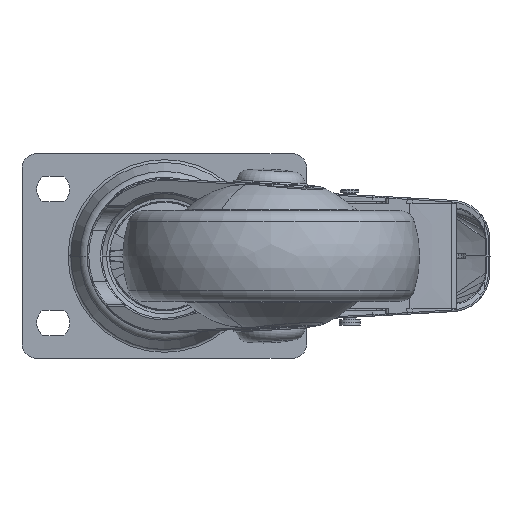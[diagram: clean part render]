
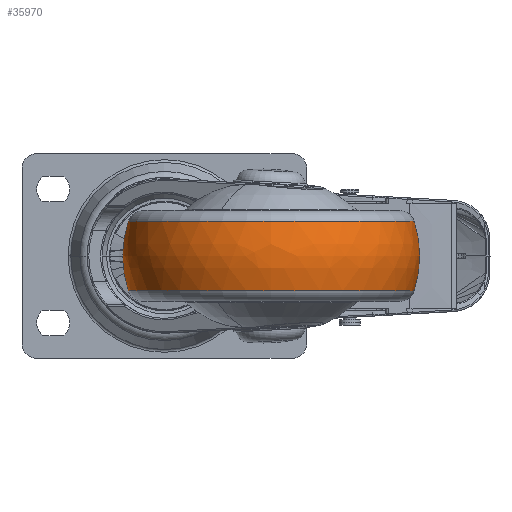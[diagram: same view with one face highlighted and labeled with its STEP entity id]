
A CAD part, front view. The second image highlights one B-rep face of the part: STEP entity #35970.
In plain terms, the highlighted free-form (B-spline) face has degree [3, 3] with [7, 4] control points.
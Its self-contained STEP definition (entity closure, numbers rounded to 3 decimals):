
#35616=CARTESIAN_POINT('',(24.21,-69.8,0.));
#35617=DIRECTION('',(0.,1.,0.));
#35618=DIRECTION('',(-0.951,0.,-0.308));
#35619=AXIS2_PLACEMENT_3D('',#35616,#35617,#35618);
#35626=CARTESIAN_POINT('',(47.79,-69.8,0.));
#35627=DIRECTION('',(0.,-1.,0.));
#35628=DIRECTION('',(0.951,0.,-0.308));
#35629=AXIS2_PLACEMENT_3D('',#35626,#35627,#35628);
#35631=CARTESIAN_POINT('',(36.,-69.8,11.766));
#35632=DIRECTION('',(0.,0.,1.));
#35633=DIRECTION('',(-1.,0.,0.));
#35634=AXIS2_PLACEMENT_3D('',#35631,#35632,#35633);
#35636=CARTESIAN_POINT('',(36.,-69.8,-11.766));
#35637=DIRECTION('',(0.,0.,1.));
#35638=DIRECTION('',(-1.,0.,0.));
#35639=AXIS2_PLACEMENT_3D('',#35636,#35637,#35638);
#35767=CARTESIAN_POINT('',(-12.143,-69.8,11.766));
#35768=CARTESIAN_POINT('',(84.143,-69.8,11.766));
#35769=VERTEX_POINT('',#35767);
#35770=VERTEX_POINT('',#35768);
#35771=CARTESIAN_POINT('',(-12.143,-69.8,-11.766));
#35772=CARTESIAN_POINT('',(84.143,-69.8,-11.766));
#35773=VERTEX_POINT('',#35771);
#35774=VERTEX_POINT('',#35772);
#35934=CARTESIAN_POINT('',(-11.899,-66.786,
-12.22));
#35935=CARTESIAN_POINT('',(-14.593,-66.617,
-4.221));
#35936=CARTESIAN_POINT('',(-14.593,-66.617,
4.221));
#35937=CARTESIAN_POINT('',(-11.899,-66.786,
12.22));
#35938=CARTESIAN_POINT('',(-13.753,-96.263,
-12.22));
#35939=CARTESIAN_POINT('',(-16.552,-97.752,
-4.221));
#35940=CARTESIAN_POINT('',(-16.552,-97.752,
4.221));
#35941=CARTESIAN_POINT('',(-13.753,-96.263,
12.22));
#35942=CARTESIAN_POINT('',(6.465,-117.793,
-12.22));
#35943=CARTESIAN_POINT('',(4.804,-120.493,
-4.221));
#35944=CARTESIAN_POINT('',(4.804,-120.493,
4.221));
#35945=CARTESIAN_POINT('',(6.465,-117.793,
12.22));
#35946=CARTESIAN_POINT('',(36.,-117.793,-12.22));
#35947=CARTESIAN_POINT('',(36.,-120.493,-4.221));
#35948=CARTESIAN_POINT('',(36.,-120.493,4.221));
#35949=CARTESIAN_POINT('',(36.,-117.793,12.22));
#35950=CARTESIAN_POINT('',(65.535,-117.793,
-12.22));
#35951=CARTESIAN_POINT('',(67.196,-120.493,
-4.221));
#35952=CARTESIAN_POINT('',(67.196,-120.493,
4.221));
#35953=CARTESIAN_POINT('',(65.535,-117.793,
12.22));
#35954=CARTESIAN_POINT('',(85.753,-96.263,
-12.22));
#35955=CARTESIAN_POINT('',(88.552,-97.752,
-4.221));
#35956=CARTESIAN_POINT('',(88.552,-97.752,
4.221));
#35957=CARTESIAN_POINT('',(85.753,-96.263,
12.22));
#35958=CARTESIAN_POINT('',(83.899,-66.786,
-12.22));
#35959=CARTESIAN_POINT('',(86.593,-66.617,
-4.221));
#35960=CARTESIAN_POINT('',(86.593,-66.617,
4.221));
#35961=CARTESIAN_POINT('',(83.899,-66.786,
12.22));
#35962=(BOUNDED_SURFACE()B_SPLINE_SURFACE(3,3,((#35934,#35935,#35936,#35937),(
#35938,#35939,#35940,#35941),(#35942,#35943,#35944,#35945),(#35946,#35947,
#35948,#35949),(#35950,#35951,#35952,#35953),(#35954,#35955,#35956,#35957),(
#35958,#35959,#35960,#35961)),.UNSPECIFIED.,.F.,.F.,.F.)B_SPLINE_SURFACE_WITH_KNOTS((4,3,4),(4,4),(0.,1.,2.),(0.,1.),.UNSPECIFIED.)GEOMETRIC_REPRESENTATION_ITEM()RATIONAL_B_SPLINE_SURFACE(((1.219,1.177,
1.177,1.219),(0.963,0.929,
0.929,0.963),(0.963,0.929,
0.929,0.963),(1.219,1.177,
1.177,1.219),(0.963,0.929,
0.929,0.963),(0.963,0.929,
0.929,0.963),(1.219,1.177,
1.177,1.219)))REPRESENTATION_ITEM('')SURFACE());
#35963=ORIENTED_EDGE('',*,*,#35834,.T.);
#35964=ORIENTED_EDGE('',*,*,#35922,.F.);
#35966=ORIENTED_EDGE('',*,*,#35965,.F.);
#35967=ORIENTED_EDGE('',*,*,#35918,.T.);
#35968=EDGE_LOOP('',(#35963,#35964,#35966,#35967));
#35969=FACE_OUTER_BOUND('',#35968,.F.);
#35620=CIRCLE('',#35619,38.21);
#35630=CIRCLE('',#35629,38.21);
#35635=CIRCLE('',#35634,48.143);
#35640=CIRCLE('',#35639,48.143);
#35834=EDGE_CURVE('',#35769,#35770,#35635,.T.);
#35918=EDGE_CURVE('',#35773,#35769,#35620,.T.);
#35922=EDGE_CURVE('',#35774,#35770,#35630,.T.);
#35965=EDGE_CURVE('',#35773,#35774,#35640,.T.);
#35970=ADVANCED_FACE('',(#35969),#35962,.T.);
